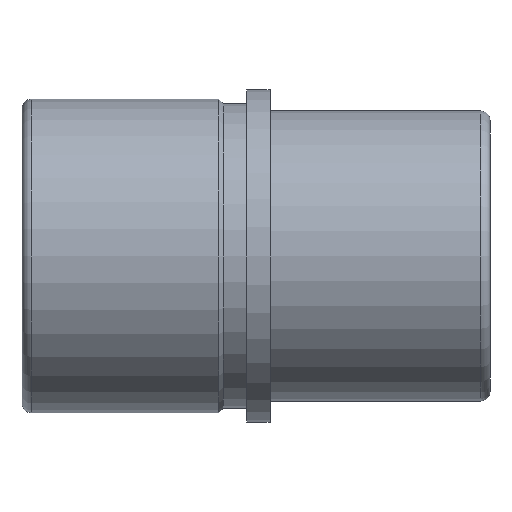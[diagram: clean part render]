
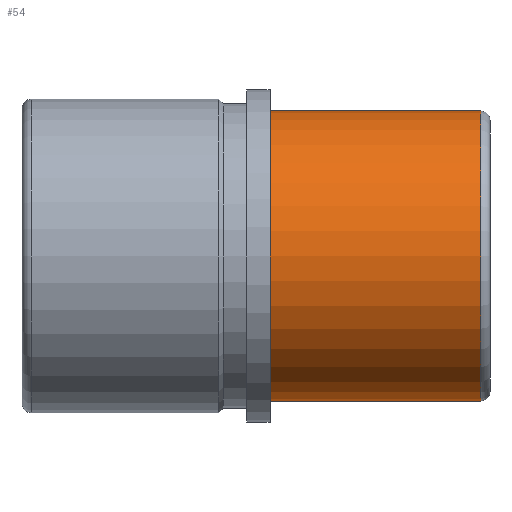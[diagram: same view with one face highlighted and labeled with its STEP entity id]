
A CAD part, front view. The second image highlights one B-rep face of the part: STEP entity #54.
In plain terms, the highlighted cylindrical face has radius 31 mm (diameter 62 mm), a full revolution.
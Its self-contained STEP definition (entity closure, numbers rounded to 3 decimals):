
#54 = ADVANCED_FACE( '', ( #115, #116 ), #117, .T. );
#115 = FACE_OUTER_BOUND( '', #178, .T. );
#116 = FACE_OUTER_BOUND( '', #179, .T. );
#117 = CYLINDRICAL_SURFACE( '', #180, 31. );
#178 = EDGE_LOOP( '', ( #251 ) );
#179 = EDGE_LOOP( '', ( #252 ) );
#180 = AXIS2_PLACEMENT_3D( '', #253, #254, #255 );
#251 = ORIENTED_EDGE( '', *, *, #288, .T. );
#252 = ORIENTED_EDGE( '', *, *, #296, .F. );
#253 = CARTESIAN_POINT( '', ( 47., 0., 0. ) );
#254 = DIRECTION( '', ( -1., 0., 0. ) );
#255 = DIRECTION( '', ( 0., 0., -1. ) );
#288 = EDGE_CURVE( '', #317, #317, #318, .T. );
#296 = EDGE_CURVE( '', #330, #330, #331, .T. );
#317 = VERTEX_POINT( '', #359 );
#318 = CIRCLE( '', #360, 31. );
#330 = VERTEX_POINT( '', #372 );
#331 = CIRCLE( '', #373, 31. );
#359 = CARTESIAN_POINT( '', ( 0., 0., -31. ) );
#360 = AXIS2_PLACEMENT_3D( '', #401, #402, #403 );
#372 = CARTESIAN_POINT( '', ( 45., 0., -31. ) );
#373 = AXIS2_PLACEMENT_3D( '', #416, #417, #418 );
#401 = CARTESIAN_POINT( '', ( 0., 0., 0. ) );
#402 = DIRECTION( '', ( 1., 0., 0. ) );
#403 = DIRECTION( '', ( 0., 0., -1. ) );
#416 = CARTESIAN_POINT( '', ( 45., 0., 0. ) );
#417 = DIRECTION( '', ( 1., 0., 0. ) );
#418 = DIRECTION( '', ( 0., 0., -1. ) );
